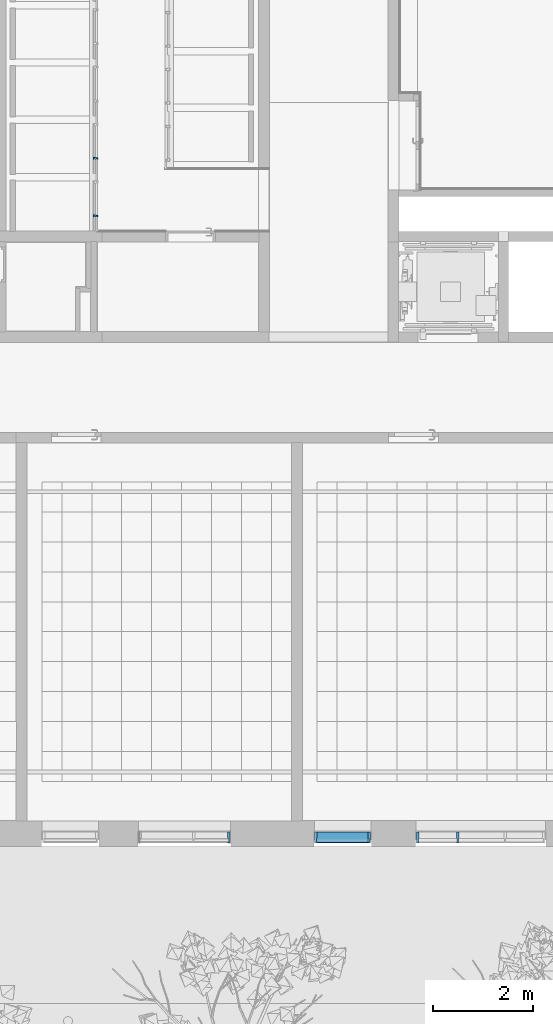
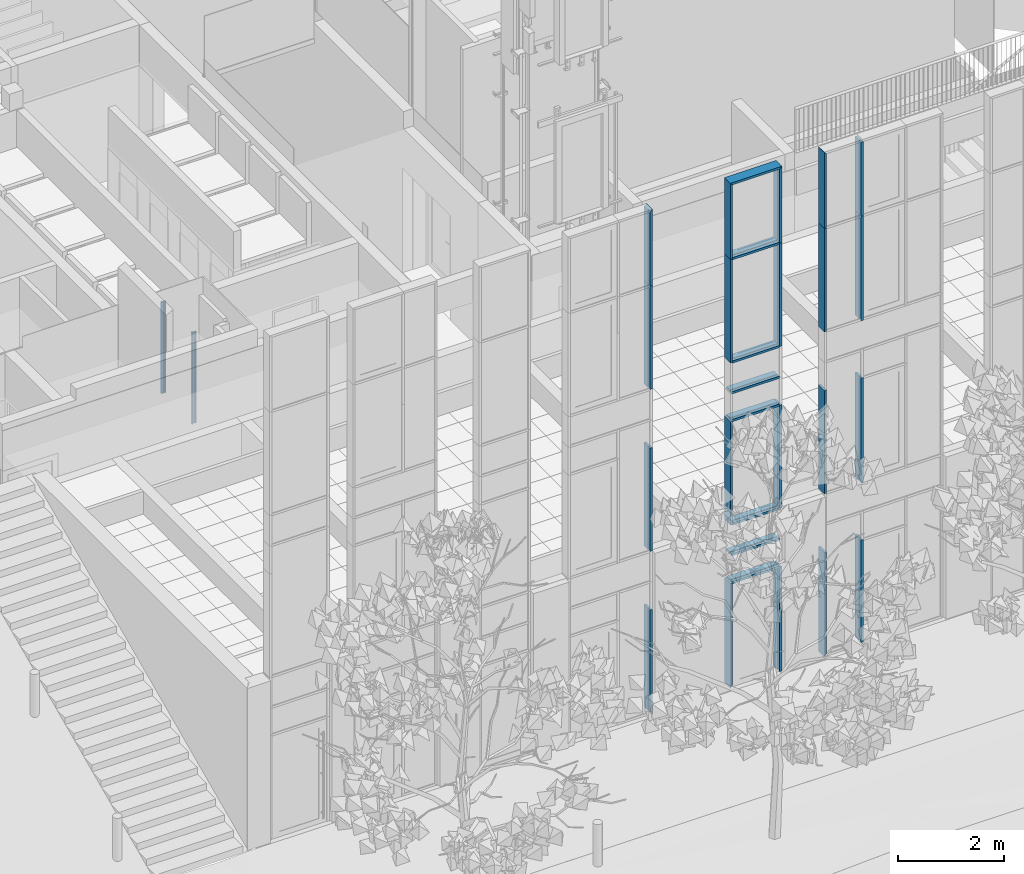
# One storey, part 3 of 246: 30 members, 4 elements without a shape of their own.
"""IFC2X3 building model written with IfcOpenShell, lengths in millimetres."""

from ifc_helpers import new_model, entity, si_unit, converted_unit, derived_unit, money_unit, direction, frame, origin_with_axes, place, context, subcontext, project, spatial, faceted_brep, source, transform, mapped, material, material_list, type_object, element, aggregate, save


model = new_model("IFC2X3")

# Units and contexts
model_context = context("Model", 3, precision=0.01, world=origin_with_axes(), true_north=direction((0.0, 1.0)))
body_context = subcontext(model_context, "Body", "Model", "MODEL_VIEW")
ifc_project = project(units=[si_unit("LENGTHUNIT", "METRE", prefix="MILLI"), si_unit("AREAUNIT", "SQUARE_METRE"), si_unit("VOLUMEUNIT", "CUBIC_METRE"), converted_unit("PLANEANGLEUNIT", "DEGREE", entity("IfcPlaneAngleMeasure", 0.0174532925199), si_unit("PLANEANGLEUNIT", "RADIAN"), dimensions=[0, 0, 0, 0, 0, 0, 0]), si_unit("SOLIDANGLEUNIT", "STERADIAN"), money_unit("EUR"), converted_unit("TIMEUNIT", "Year", entity("IfcTimeMeasure", 31556926.0), si_unit("TIMEUNIT", "SECOND"), dimensions=[0, 0, 1, 0, 0, 0, 0]), si_unit("MASSUNIT", "GRAM", prefix="KILO"), si_unit("THERMODYNAMICTEMPERATUREUNIT", "DEGREE_CELSIUS"), si_unit("LUMINOUSINTENSITYUNIT", "LUMEN"), si_unit("ENERGYUNIT", "JOULE", prefix="MEGA"), derived_unit("THERMALCONDUCTANCEUNIT", [(si_unit("POWERUNIT", "WATT"), 1), (si_unit("LENGTHUNIT", "METRE"), -1), (si_unit("THERMODYNAMICTEMPERATUREUNIT", "KELVIN"), -1)]), derived_unit("SPECIFICHEATCAPACITYUNIT", [(si_unit("ENERGYUNIT", "JOULE"), 1), (si_unit("MASSUNIT", "GRAM", prefix="KILO"), -1), (si_unit("THERMODYNAMICTEMPERATUREUNIT", "KELVIN"), -1)]), derived_unit("MASSDENSITYUNIT", [(si_unit("MASSUNIT", "GRAM", prefix="KILO"), 1), (si_unit("VOLUMEUNIT", "CUBIC_METRE"), -1)])], contexts=[model_context])

# Site, building, storey
site_placement = place(None, origin_with_axes())
site = spatial("IfcSite", under=ifc_project, at=site_placement, Name="L.Koidula tn 11b", CompositionType="ELEMENT")
building_placement = place(site_placement, origin_with_axes())
building = spatial("IfcBuilding", under=site, at=building_placement, Name="Rakvere Riigigümnaasium", CompositionType="ELEMENT")
storey_placement = place(building_placement, origin_with_axes())
storey = spatial("IfcBuildingStorey", under=building, at=storey_placement, Name="1.korrus 0,00", CompositionType="ELEMENT", Elevation=0.0)

# Curtain wall, members
curtain_wall_type = type_object("IfcCurtainWallType", Name="Curtain Wall Type", PredefinedType="NOTDEFINED")
curtain_wall_1_placement = place(storey_placement, frame((42948.5002114, 5111.45334637, -8.09717250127e-06), z_axis=(0.0, 0.0, 1.0), x_axis=(1.0, 0.0, 0.0)))
curtain_wall_1 = element("IfcCurtainWall", 1, at=curtain_wall_1_placement, inside=storey, type_object=curtain_wall_type, Name="KLF-05-2A")
ifc_material_1 = material(Name="Alumiiniumprofiil (RAL 7021)")
member_type_1 = type_object("IfcMemberType", Name="Boundary Frame 50 x 222", PredefinedType="MULLION")
shared_shape_1 = source(origin_with_axes(), body_context, "Body", "Brep", [
    faceted_brep([(37.0, -32.5, 2375.00000025), (37.0, 32.5, 2375.00000025), (50.0, 32.5, 2375.00000025), (50.0, 53.0, 2375.00000025), (0.0, 53.0, 2375.00000025), (0.0, -169.0, 2375.00000025), (50.0, -169.0, 2375.00000025), (50.0, -32.5, 2375.00000025), (37.0, -32.5, -2.4712543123e-07), (37.0, 32.5, -2.4712543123e-07), (50.0, 32.5, -2.47125653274e-07), (50.0, 53.0, -2.47125653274e-07), (0.0, 53.0, -2.47125653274e-07), (0.0, -169.0, -2.47125653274e-07), (50.0, -169.0, -2.47125653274e-07), (50.0, -32.5, -2.47125653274e-07)], [[[0, 1, 2, 3, 4, 5, 6, 7]], [[1, 0, 8, 9]], [[10, 2, 1, 9]], [[2, 10, 11, 3]], [[12, 4, 3, 11]], [[13, 5, 4, 12]], [[14, 6, 5, 13]], [[15, 7, 6, 14]], [[0, 7, 15, 8]], [[8, 15, 14, 13, 12, 11, 10, 9]]]),
])
member_1_placement = place(curtain_wall_1_placement, frame((876.000206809, 0.0, 7465.0), z_axis=(-1.46874329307e-08, 0.0, 1.0), x_axis=(-1.0, 0.0, -1.46874329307e-08)))
member_1 = element("IfcMember", 2, at=member_1_placement, type_object=member_type_1, material=ifc_material_1, Name="KLF-05-8A-Profiilid", ObjectType="MULLION", context=body_context, shape_type="MappedRepresentation", body=[
    mapped(shared_shape_1, transform((0.0, 0.0, 0.0))),
])
member_2_placement = place(curtain_wall_1_placement, frame((876.000206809, 0.0, 3745.0), z_axis=(0.0, 0.0, 1.0), x_axis=(-1.0, 0.0, 0.0)))
member_2 = element("IfcMember", 3, at=member_2_placement, type_object=member_type_1, material=ifc_material_1, Name="KLF-05-5A-Profiilid", ObjectType="MULLION", context=body_context, shape_type="MappedRepresentation", body=[
    mapped(shared_shape_1, transform((0.0, 0.0, 0.0))),
])

curtain_wall_2_placement = place(storey_placement, frame((45905.0206042, 5111.45334637, -8.09717236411e-06), z_axis=(0.0, 0.0, 1.0), x_axis=(1.0, 0.0, 0.0)))
curtain_wall_2 = element("IfcCurtainWall", 4, at=curtain_wall_2_placement, inside=storey, type_object=curtain_wall_type, Name="KLF-05-1B")
member_3_placement = place(curtain_wall_2_placement, frame((734.490457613, 0.0, 7465.0), z_axis=(-9.95532302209e-09, 0.0, 1.0), x_axis=(-1.0, 0.0, -9.95532302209e-09)))
member_3 = element("IfcMember", 5, at=member_3_placement, type_object=member_type_1, material=ifc_material_1, Name="KLF-05-1A-Profiilid", ObjectType="MULLION", context=body_context, shape_type="MappedRepresentation", body=[
    mapped(shared_shape_1, transform((0.0, 0.0, 0.0))),
])
member_4_placement = place(curtain_wall_2_placement, frame((734.490457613, 0.0, 3745.0), z_axis=(0.0, 0.0, 1.0), x_axis=(-1.0, 0.0, 0.0)))
member_4 = element("IfcMember", 6, at=member_4_placement, type_object=member_type_1, material=ifc_material_1, Name="KLF-05-8A-Profiilid", ObjectType="MULLION", context=body_context, shape_type="MappedRepresentation", body=[
    mapped(shared_shape_1, transform((0.0, 0.0, 0.0))),
])
shared_shape_2 = source(origin_with_axes(), body_context, "Body", "Brep", [
    faceted_brep([(-37.0, -32.5, 2375.0), (-50.0, -32.5, 2375.0), (-50.0, -169.0, 2375.0), (0.0, -169.0, 2375.0), (0.0, 53.0, 2375.0), (-50.0, 53.0, 2375.0), (-50.0, 32.5, 2375.0), (-37.0, 32.5, 2375.0), (-37.0, -32.5, 0.0), (-50.0, -32.5, 0.0), (-50.0, -169.0, 0.0), (0.0, -169.0, 0.0), (0.0, 53.0, 0.0), (-50.0, 53.0, 0.0), (-50.0, 32.5, 0.0), (-37.0, 32.5, 0.0)], [[[0, 1, 2, 3, 4, 5, 6, 7]], [[0, 8, 9, 1]], [[9, 10, 2, 1]], [[10, 11, 3, 2]], [[11, 12, 4, 3]], [[12, 13, 5, 4]], [[6, 5, 13, 14]], [[14, 15, 7, 6]], [[7, 15, 8, 0]], [[8, 15, 14, 13, 12, 11, 10, 9]]]),
])
member_5_placement = place(curtain_wall_2_placement, frame((-385.509964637, 0.0, 3745.0), z_axis=(0.0, 0.0, 1.0), x_axis=(-1.0, 0.0, 0.0)))
member_5 = element("IfcMember", 7, at=member_5_placement, type_object=member_type_1, material=ifc_material_1, Name="KLF-05-8A-Profiilid", ObjectType="MULLION", context=body_context, shape_type="MappedRepresentation", body=[
    mapped(shared_shape_2, transform((0.0, 0.0, 0.0))),
])
member_6_placement = place(curtain_wall_2_placement, frame((-385.509964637, 0.0, 7465.0), z_axis=(0.0, 0.0, 1.0), x_axis=(-1.0, 0.0, 0.0)))
member_6 = element("IfcMember", 8, at=member_6_placement, type_object=member_type_1, material=ifc_material_1, Name="KLF-05-5A-Profiilid", ObjectType="MULLION", context=body_context, shape_type="MappedRepresentation", body=[
    mapped(shared_shape_2, transform((0.0, 0.0, 0.0))),
])

curtain_wall_3_placement = place(storey_placement, frame((48860.000217, 5111.43278481, -1.61944597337e-05), z_axis=(0.0, 0.0, 1.0), x_axis=(1.0, 0.0, 0.0)))
curtain_wall_3 = element("IfcCurtainWall", 9, at=curtain_wall_3_placement, inside=storey, type_object=curtain_wall_type, Name="KLF-05-3A")
member_7_placement = place(curtain_wall_3_placement, frame((-1299.99999984, 0.0205615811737, 3745.0), z_axis=(0.0, 0.0, 1.0), x_axis=(-0.999999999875, 1.58166009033e-05, 0.0)))
member_7 = element("IfcMember", 10, at=member_7_placement, type_object=member_type_1, material=ifc_material_1, Name="KLF-05-0A-Profiilid", ObjectType="MULLION", context=body_context, shape_type="MappedRepresentation", body=[
    mapped(shared_shape_2, transform((0.0, 0.0, 0.0))),
])
member_8_placement = place(curtain_wall_3_placement, frame((-1299.99999984, 0.0205615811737, 7465.0), z_axis=(0.0, 0.0, 1.0), x_axis=(-0.999999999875, 1.58166009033e-05, 0.0)))
member_8 = element("IfcMember", 11, at=member_8_placement, type_object=member_type_1, material=ifc_material_1, Name="KLF-05-7A-Profiilid", ObjectType="MULLION", context=body_context, shape_type="MappedRepresentation", body=[
    mapped(shared_shape_2, transform((0.0, 0.0, 0.0))),
])

# Member
shared_shape_3 = source(origin_with_axes(), body_context, "Body", "Brep", [
    faceted_brep([(37.0, -32.5, 1712.99983191), (37.0, 32.5, 1712.99983191), (50.0, 32.5, 1699.99983191), (50.0, 53.0, 1699.99983191), (0.0, 53.0, 1749.99983191), (0.0, -169.0, 1749.99983191), (50.0, -169.0, 1699.99983191), (50.0, -32.5, 1699.99983191), (37.0, -32.5, -2.47125875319e-07), (37.0, 32.5, -2.47125875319e-07), (50.0, 32.5, -2.47125764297e-07), (50.0, 53.0, -2.47125764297e-07), (0.0, 53.0, -2.47125764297e-07), (0.0, -169.0, -2.47125764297e-07), (50.0, -169.0, -2.47125764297e-07), (50.0, -32.5, -2.47125764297e-07)], [[[0, 1, 2, 3, 4, 5, 6, 7]], [[1, 0, 8, 9]], [[10, 2, 1, 9]], [[2, 10, 11, 3]], [[12, 4, 3, 11]], [[13, 5, 4, 12]], [[14, 6, 5, 13]], [[15, 7, 6, 14]], [[0, 7, 15, 8]], [[8, 15, 14, 13, 12, 11, 10, 9]]]),
])
member_9_placement = place(curtain_wall_1_placement, frame((876.000171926, 0.0, 9840.0), z_axis=(5.61334026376e-08, 0.0, 1.0), x_axis=(-1.0, 0.0, 5.61334026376e-08)))
member_9 = element("IfcMember", 12, at=member_9_placement, type_object=member_type_1, material=ifc_material_1, Name="KLF-05-9A-Profiilid", ObjectType="MULLION", context=body_context, shape_type="MappedRepresentation", body=[
    mapped(shared_shape_3, transform((0.0, 0.0, 0.0))),
])

member_10_placement = place(curtain_wall_2_placement, frame((734.490433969, 0.0, 9840.0), z_axis=(3.69989419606e-08, 0.0, 1.0), x_axis=(-1.0, 0.0, 3.69989419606e-08)))
member_10 = element("IfcMember", 13, at=member_10_placement, type_object=member_type_1, material=ifc_material_1, Name="KLF-05-2A-Profiilid", ObjectType="MULLION", context=body_context, shape_type="MappedRepresentation", body=[
    mapped(shared_shape_3, transform((0.0, 0.0, 0.0))),
])

member_type_2 = type_object("IfcMemberType", Name="Mullion Frame 50 x 222", PredefinedType="MULLION")
shared_shape_4 = source(origin_with_axes(), body_context, "Body", "Brep", [
    faceted_brep([(-12.0, -32.5, 2375.0), (-25.0, -32.5, 2375.0), (-25.0, -169.0, 2375.0), (25.0, -169.0, 2375.0), (25.0, -32.5, 2375.0), (12.0, -32.5, 2375.0), (12.0, 32.5, 2375.0), (25.0, 32.5, 2375.0), (25.0, 53.0, 2375.0), (-25.0, 53.0, 2375.0), (-25.0, 32.5, 2375.0), (-12.0, 32.5, 2375.0), (-12.0, -32.5, -25.0), (-25.0, -32.5, -25.0), (-25.0, -169.0, -25.0), (25.0, -169.0, -25.0), (25.0, -32.5, -25.0), (12.0, -32.5, -25.0), (12.0, 32.5, -25.0), (25.0, 32.5, -25.0), (25.0, 53.0, -25.0), (-25.0, 53.0, -25.0), (-25.0, 32.5, -25.0), (-12.0, 32.5, -25.0)], [[[0, 1, 2, 3, 4, 5, 6, 7, 8, 9, 10, 11]], [[1, 0, 12, 13]], [[1, 13, 14, 2]], [[3, 2, 14, 15]], [[4, 3, 15, 16]], [[4, 16, 17, 5]], [[5, 17, 18, 6]], [[7, 6, 18, 19]], [[19, 20, 8, 7]], [[9, 8, 20, 21]], [[22, 10, 9, 21]], [[11, 10, 22, 23]], [[0, 11, 23, 12]], [[23, 22, 21, 20, 19, 18, 17, 16, 15, 14, 13, 12]]]),
])
member_11_placement = place(curtain_wall_3_placement, frame((-474.999999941, 0.00751288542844, 3745.0), z_axis=(0.0, 0.0, 1.0), x_axis=(-0.999999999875, 1.58166009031e-05, 0.0)))
member_11 = element("IfcMember", 14, at=member_11_placement, type_object=member_type_2, material=ifc_material_1, Name="KLF-05-3A-Profiilid", ObjectType="MULLION", context=body_context, shape_type="MappedRepresentation", body=[
    mapped(shared_shape_4, transform((0.0, 0.0, 0.0))),
])

member_12_placement = place(curtain_wall_3_placement, frame((-474.999999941, 0.00751288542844, 7465.0), z_axis=(0.0, 0.0, 1.0), x_axis=(-0.999999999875, 1.58166009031e-05, 0.0)))
member_12 = element("IfcMember", 15, at=member_12_placement, type_object=member_type_2, material=ifc_material_1, Name="KLF-05-3A-Profiilid", ObjectType="MULLION", context=body_context, shape_type="MappedRepresentation", body=[
    mapped(shared_shape_4, transform((0.0, 0.0, 0.0))),
])

shared_shape_5 = source(origin_with_axes(), body_context, "Body", "Brep", [
    faceted_brep([(37.0, -32.5, 2400.0), (37.0, 32.5, 2400.0), (50.0, 32.5, 2400.0), (50.0, 53.0, 2400.0), (0.0, 53.0, 2400.0), (0.0, -169.0, 2400.0), (50.0, -169.0, 2400.0), (50.0, -32.5, 2400.0), (37.0, -32.5, 37.0), (37.0, 32.5, 37.0), (50.0, 32.5, 50.0), (50.0, 53.0, 50.0), (0.0, 53.0, 0.0), (0.0, -169.0, 0.0), (50.0, -169.0, 50.0), (50.0, -32.5, 50.0)], [[[0, 1, 2, 3, 4, 5, 6, 7]], [[1, 0, 8, 9]], [[10, 2, 1, 9]], [[2, 10, 11, 3]], [[4, 3, 11, 12]], [[5, 4, 12, 13]], [[6, 5, 13, 14]], [[15, 7, 6, 14]], [[0, 7, 15, 8]], [[8, 15, 14, 13, 12, 11, 10, 9]]]),
])
member_13_placement = place(curtain_wall_1_placement, frame((876.000206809, 0.0, 0.0), z_axis=(0.0, 0.0, 1.0), x_axis=(-1.0, 0.0, 0.0)))
member_13 = element("IfcMember", 16, at=member_13_placement, type_object=member_type_1, material=ifc_material_1, Name="KLF-05-2A-Profiilid", ObjectType="MULLION", context=body_context, shape_type="MappedRepresentation", body=[
    mapped(shared_shape_5, transform((0.0, 0.0, 0.0))),
])

aggregate(curtain_wall_1, [member_1, member_2, member_13, member_9])

shared_shape_6 = source(origin_with_axes(), body_context, "Body", "Brep", [
    faceted_brep([(-12.0, -32.5, 1699.99983191), (-25.0, -32.5, 1699.99983191), (-25.0, -169.0, 1699.99983191), (25.0, -169.0, 1699.99983191), (25.0, -32.5, 1699.99983191), (12.0, -32.5, 1699.99983191), (12.0, 32.5, 1699.99983191), (25.0, 32.5, 1699.99983191), (25.0, 53.0, 1699.99983191), (-25.0, 53.0, 1699.99983191), (-25.0, 32.5, 1699.99983191), (-12.0, 32.5, 1699.99983191), (-12.0, -32.5, 0.0), (-25.0, -32.5, 0.0), (-25.0, -169.0, 0.0), (25.0, -169.0, 0.0), (25.0, -32.5, 0.0), (12.0, -32.5, 0.0), (12.0, 32.5, 0.0), (25.0, 32.5, 0.0), (25.0, 53.0, 0.0), (-25.0, 53.0, 0.0), (-25.0, 32.5, 0.0), (-12.0, 32.5, 0.0)], [[[0, 1, 2, 3, 4, 5, 6, 7, 8, 9, 10, 11]], [[1, 0, 12, 13]], [[1, 13, 14, 2]], [[3, 2, 14, 15]], [[4, 3, 15, 16]], [[4, 16, 17, 5]], [[5, 17, 18, 6]], [[7, 6, 18, 19]], [[19, 20, 8, 7]], [[9, 8, 20, 21]], [[22, 10, 9, 21]], [[11, 10, 22, 23]], [[0, 11, 23, 12]], [[23, 22, 21, 20, 19, 18, 17, 16, 15, 14, 13, 12]]]),
])
member_14_placement = place(curtain_wall_3_placement, frame((-474.999999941, 0.00751288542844, 9840.0), z_axis=(0.0, 0.0, 1.0), x_axis=(-0.999999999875, 1.58166009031e-05, 0.0)))
member_14 = element("IfcMember", 17, at=member_14_placement, type_object=member_type_2, material=ifc_material_1, Name="KLF-05-9A-Profiilid", ObjectType="MULLION", context=body_context, shape_type="MappedRepresentation", body=[
    mapped(shared_shape_6, transform((0.0, 0.0, 0.0))),
])

shared_shape_7 = source(origin_with_axes(), body_context, "Body", "Brep", [
    faceted_brep([(-37.0, -32.5, 2400.0), (-50.0, -32.5, 2400.0), (-50.0, -169.0, 2400.0), (0.0, -169.0, 2400.0), (0.0, 53.0, 2400.0), (-50.0, 53.0, 2400.0), (-50.0, 32.5, 2400.0), (-37.0, 32.5, 2400.0), (-37.0, -32.5, 37.0), (-50.0, -32.5, 50.0), (-50.0, -169.0, 50.0), (0.0, -169.0, 0.0), (0.0, 53.0, 0.0), (-50.0, 53.0, 50.0), (-50.0, 32.5, 50.0), (-37.0, 32.5, 37.0)], [[[0, 1, 2, 3, 4, 5, 6, 7]], [[0, 8, 9, 1]], [[9, 10, 2, 1]], [[2, 10, 11, 3]], [[3, 11, 12, 4]], [[4, 12, 13, 5]], [[6, 5, 13, 14]], [[14, 15, 7, 6]], [[7, 15, 8, 0]], [[8, 15, 14, 13, 12, 11, 10, 9]]]),
])
member_15_placement = place(curtain_wall_2_placement, frame((-385.509964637, 0.0, 0.0), z_axis=(0.0, 0.0, 1.0), x_axis=(-1.0, 0.0, 0.0)))
member_15 = element("IfcMember", 18, at=member_15_placement, type_object=member_type_1, material=ifc_material_1, Name="KLF-05-1A-Profiilid", ObjectType="MULLION", context=body_context, shape_type="MappedRepresentation", body=[
    mapped(shared_shape_7, transform((0.0, 0.0, 0.0))),
])

member_16_placement = place(curtain_wall_3_placement, frame((-1299.99999984, 0.0205615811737, 0.0), z_axis=(0.0, 0.0, 1.0), x_axis=(-0.999999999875, 1.58166009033e-05, 0.0)))
member_16 = element("IfcMember", 19, at=member_16_placement, type_object=member_type_1, material=ifc_material_1, Name="KLF-05-1A-Profiilid", ObjectType="MULLION", context=body_context, shape_type="MappedRepresentation", body=[
    mapped(shared_shape_7, transform((0.0, 0.0, 0.0))),
])

shared_shape_8 = source(origin_with_axes(), body_context, "Body", "Brep", [
    faceted_brep([(-37.0, -32.5, 1712.99983191), (-50.0, -32.5, 1699.99983191), (-50.0, -169.0, 1699.99983191), (0.0, -169.0, 1749.99983191), (0.0, 53.0, 1749.99983191), (-50.0, 53.0, 1699.99983191), (-50.0, 32.5, 1699.99983191), (-37.0, 32.5, 1712.99983191), (-37.0, -32.5, 0.0), (-50.0, -32.5, 0.0), (-50.0, -169.0, 0.0), (0.0, -169.0, 0.0), (0.0, 53.0, 0.0), (-50.0, 53.0, 0.0), (-50.0, 32.5, 0.0), (-37.0, 32.5, 0.0)], [[[0, 1, 2, 3, 4, 5, 6, 7]], [[0, 8, 9, 1]], [[9, 10, 2, 1]], [[10, 11, 3, 2]], [[11, 12, 4, 3]], [[12, 13, 5, 4]], [[6, 5, 13, 14]], [[14, 15, 7, 6]], [[7, 15, 8, 0]], [[8, 15, 14, 13, 12, 11, 10, 9]]]),
])
member_17_placement = place(curtain_wall_2_placement, frame((-385.509964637, 0.0, 9840.0), z_axis=(0.0, 0.0, 1.0), x_axis=(-1.0, 0.0, 0.0)))
member_17 = element("IfcMember", 20, at=member_17_placement, type_object=member_type_1, material=ifc_material_1, Name="KLF-05-4A-Profiilid", ObjectType="MULLION", context=body_context, shape_type="MappedRepresentation", body=[
    mapped(shared_shape_8, transform((0.0, 0.0, 0.0))),
])

member_18_placement = place(curtain_wall_3_placement, frame((-1299.99999984, 0.0205615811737, 9840.0), z_axis=(0.0, 0.0, 1.0), x_axis=(-0.999999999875, 1.58166009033e-05, 0.0)))
member_18 = element("IfcMember", 21, at=member_18_placement, type_object=member_type_1, material=ifc_material_1, Name="KLF-05-6A-Profiilid", ObjectType="MULLION", context=body_context, shape_type="MappedRepresentation", body=[
    mapped(shared_shape_8, transform((0.0, 0.0, 0.0))),
])

member_type_3 = type_object("IfcMemberType", Name="Transom Frame 50 x 222", PredefinedType="MULLION")
shared_shape_9 = source(origin_with_axes(), body_context, "Body", "Brep", [
    faceted_brep([(-12.0, -32.5, 1070.00039943), (-25.0, -32.5, 1070.00039943), (-25.0, -169.0, 1070.00039943), (25.0, -169.0, 1070.00039943), (25.0, -32.5, 1070.00039943), (12.0, -32.5, 1070.00039943), (12.0, 32.5, 1070.00039943), (25.0, 32.5, 1070.00039943), (25.0, 53.0, 1070.00039943), (-25.0, 53.0, 1070.00039943), (-25.0, 32.5, 1070.00039943), (-12.0, 32.5, 1070.00039943), (-12.0, -32.5, 50.0000015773), (-25.0, -32.5, 50.0000015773), (-25.0, -169.0, 50.0000082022), (25.0, -169.0, 50.0000082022), (25.0, -32.5, 50.0000015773), (12.0, -32.5, 50.0000015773), (12.0, 32.5, 49.9999984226), (25.0, 32.5, 49.9999984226), (25.0, 53.0, 49.9999974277), (-25.0, 53.0, 49.9999974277), (-25.0, 32.5, 49.9999984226), (-12.0, 32.5, 49.9999984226)], [[[0, 1, 2, 3, 4, 5, 6, 7, 8, 9, 10, 11]], [[1, 0, 12, 13]], [[1, 13, 14, 2]], [[2, 14, 15, 3]], [[4, 3, 15, 16]], [[4, 16, 17, 5]], [[5, 17, 18, 6]], [[7, 6, 18, 19]], [[19, 20, 8, 7]], [[8, 20, 21, 9]], [[22, 10, 9, 21]], [[11, 10, 22, 23]], [[0, 11, 23, 12]], [[23, 22, 21, 20, 19, 18, 17, 16, 15, 14, 13, 12]]]),
])
member_19_placement = place(curtain_wall_2_placement, frame((-385.509964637, 0.0, 9840.0), z_axis=(1.0, 0.0, 0.0), x_axis=(0.0, 0.0, 1.0)))
member_19 = element("IfcMember", 22, at=member_19_placement, type_object=member_type_3, material=ifc_material_1, Name="KLF-05-0A-Profiilid", ObjectType="MULLION", context=body_context, shape_type="MappedRepresentation", body=[
    mapped(shared_shape_9, transform((0.0, 0.0, 0.0))),
])

shared_shape_10 = source(origin_with_axes(), body_context, "Body", "Brep", [
    faceted_brep([(-12.0, -32.5, 2400.0), (-25.0, -32.5, 2400.0), (-25.0, -169.0, 2400.0), (25.0, -169.0, 2400.0), (25.0, -32.5, 2400.0), (12.0, -32.5, 2400.0), (12.0, 32.5, 2400.0), (25.0, 32.5, 2400.0), (25.0, 53.0, 2400.0), (-25.0, 53.0, 2400.0), (-25.0, 32.5, 2400.0), (-12.0, 32.5, 2400.0), (-12.0, -32.5, 50.0), (-25.0, -32.5, 50.0), (-25.0, -169.0, 50.0), (25.0, -169.0, 50.0), (25.0, -32.5, 50.0), (12.0, -32.5, 50.0), (12.0, 32.5, 50.0), (25.0, 32.5, 50.0), (25.0, 53.0, 50.0), (-25.0, 53.0, 50.0), (-25.0, 32.5, 50.0), (-12.0, 32.5, 50.0)], [[[0, 1, 2, 3, 4, 5, 6, 7, 8, 9, 10, 11]], [[1, 0, 12, 13]], [[1, 13, 14, 2]], [[2, 14, 15, 3]], [[4, 3, 15, 16]], [[4, 16, 17, 5]], [[5, 17, 18, 6]], [[7, 6, 18, 19]], [[19, 20, 8, 7]], [[8, 20, 21, 9]], [[22, 10, 9, 21]], [[11, 10, 22, 23]], [[0, 11, 23, 12]], [[23, 22, 21, 20, 19, 18, 17, 16, 15, 14, 13, 12]]]),
])
member_20_placement = place(curtain_wall_3_placement, frame((-474.999999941, 0.00751288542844, 0.0), z_axis=(0.0, 0.0, 1.0), x_axis=(-0.999999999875, 1.58166009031e-05, 0.0)))
member_20 = element("IfcMember", 23, at=member_20_placement, type_object=member_type_2, material=ifc_material_1, Name="KLF-05-3A-Profiilid", ObjectType="MULLION", context=body_context, shape_type="MappedRepresentation", body=[
    mapped(shared_shape_10, transform((0.0, 0.0, 0.0))),
])

aggregate(curtain_wall_3, [member_20, member_11, member_12, member_16, member_7, member_8, member_18, member_14])

# Curtain wall, members
curtain_wall_4_placement = place(storey_placement, frame((41170.0073165, 24038.4555472, 1.56205997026e-05), z_axis=(0.0, 0.0, 1.0), x_axis=(1.0, 0.0, 0.0)))
curtain_wall_4 = element("IfcCurtainWall", 24, at=curtain_wall_4_placement, inside=storey, type_object=curtain_wall_type, Name="SUS-01")
ifc_material_2 = material(Name="MDF")
ifc_material_3 = material(Name="Alumiiniumprofiil")
ifc_material_list = material_list([ifc_material_2, ifc_material_3])
member_type_4 = type_object("IfcMemberType", Name="SA-Siseuksesüsteem-V 46 x 0", PredefinedType="MULLION")
shared_shape_11 = source(origin_with_axes(), body_context, "Body", "Brep", [
    faceted_brep([(-1.99999958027, 10.0000006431, 0.0), (-33.9999997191, 9.99997870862, 0.0), (-33.9999997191, 9.99997870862, 2099.99998859), (-1.99999958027, 10.0000006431, 2099.99998859), (-2.00000095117, 0.0, 0.0), (-33.9999997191, 0.0, 0.0), (-33.9999997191, 0.0, 2099.99998859), (-2.00000095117, 0.0, 2099.99998859)], [[[0, 1, 2, 3]], [[0, 4, 5, 1]], [[1, 5, 6, 2]], [[3, 2, 6, 7]], [[4, 0, 3, 7]], [[5, 4, 7, 6]]]),
    faceted_brep([(10.0000006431, 91.9999779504, 0.0), (-33.9999997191, 91.9999779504, 0.0), (-33.9999997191, 91.9999779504, 2099.99998859), (10.0000006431, 91.9999779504, 2099.99998859), (10.0000294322, 81.9999773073, 0.0), (-33.9999997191, 81.9999773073, 0.0), (-33.9999997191, 81.9999773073, 2099.99998859), (10.0000294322, 81.9999773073, 2099.99998859)], [[[0, 1, 2, 3]], [[0, 4, 5, 1]], [[1, 5, 6, 2]], [[3, 2, 6, 7]], [[4, 0, 3, 7]], [[5, 4, 7, 6]]]),
    faceted_brep([(12.0000002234, 47.5000006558, 0.0), (12.0000002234, 91.9999779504, 0.0), (12.0000002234, 91.9999779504, 2099.99998859), (12.0000002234, 47.5000006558, 2099.99998859), (0.0, 47.5000006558, 0.0), (0.0, 32.9000011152, 0.0), (0.0, 0.0, 0.0), (-2.00000095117, 0.0, 0.0), (-1.99999958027, 10.0000006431, 0.0), (-2.00000095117, 10.49999951, 0.0), (-32.0000001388, 10.49999951, 0.0), (-32.0000001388, 9.99997870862, 0.0), (-33.9999997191, 9.99997870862, 0.0), (-33.9999997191, 13.9999998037, 0.0), (-22.4999997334, 13.9999998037, 0.0), (-22.4999997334, 44.3999997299, 0.0), (-33.9999997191, 44.3999997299, 0.0), (-33.9999997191, 47.600000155, 0.0), (-22.4999997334, 47.600000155, 0.0), (-22.4999997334, 78.0000000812, 0.0), (-33.9999997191, 78.0000000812, 0.0), (-33.9999997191, 81.5000003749, 0.0), (-24.2499991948, 81.5000003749, 0.0), (9.99999927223, 81.5000003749, 0.0), (10.0000294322, 81.9999773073, 0.0), (10.0000006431, 91.9999779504, 0.0), (10.0000006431, 91.9999779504, 2099.99998859), (10.0000294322, 81.9999773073, 2099.99998859), (9.99999927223, 81.5000003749, 2099.99998859), (-24.2499991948, 81.5000003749, 2099.99998859), (-33.9999997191, 81.5000003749, 2099.99998859), (-33.9999997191, 78.0000000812, 2099.99998859), (-22.4999997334, 78.0000000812, 2099.99998859), (-22.4999997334, 47.600000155, 2099.99998859), (-33.9999997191, 47.600000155, 2099.99998859), (-33.9999997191, 44.3999997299, 2099.99998859), (-22.4999997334, 44.3999997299, 2099.99998859), (-22.4999997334, 13.9999998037, 2099.99998859), (-33.9999997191, 13.9999998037, 2099.99998859), (-33.9999997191, 9.99997870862, 2099.99998859), (-32.0000001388, 9.99997870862, 2099.99998859), (-32.0000001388, 10.49999951, 2099.99998859), (-2.00000095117, 10.49999951, 2099.99998859), (-1.99999958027, 10.0000006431, 2099.99998859), (-2.00000095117, 0.0, 2099.99998859), (0.0, 0.0, 2099.99998859), (0.0, 32.9000011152, 2099.99998859), (0.0, 47.5000006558, 2099.99998859)], [[[0, 1, 2, 3]], [[0, 4, 5, 6, 7, 8, 9, 10, 11, 12, 13, 14, 15, 16, 17, 18, 19, 20, 21, 22, 23, 24, 25, 1]], [[1, 25, 26, 2]], [[3, 2, 26, 27, 28, 29, 30, 31, 32, 33, 34, 35, 36, 37, 38, 39, 40, 41, 42, 43, 44, 45, 46, 47]], [[4, 0, 3, 47]], [[5, 4, 47, 46]], [[6, 5, 46, 45]], [[7, 6, 45, 44]], [[8, 7, 44, 43]], [[9, 8, 43, 42]], [[10, 9, 42, 41]], [[11, 10, 41, 40]], [[12, 11, 40, 39]], [[13, 12, 39, 38]], [[14, 13, 38, 37]], [[15, 14, 37, 36]], [[16, 15, 36, 35]], [[17, 16, 35, 34]], [[18, 17, 34, 33]], [[19, 18, 33, 32]], [[20, 19, 32, 31]], [[21, 20, 31, 30]], [[22, 21, 30, 29]], [[23, 22, 29, 28]], [[24, 23, 28, 27]], [[25, 24, 27, 26]]]),
])
member_21_placement = place(curtain_wall_4_placement, frame((0.0, -5247.00003493, -1.56205997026e-05), z_axis=(0.0, 0.0, 1.0), x_axis=(0.0, 1.0, 0.0)))
member_21 = element("IfcMember", 25, at=member_21_placement, type_object=member_type_4, material=ifc_material_list, Name="Frame-New-Frame-022", ObjectType="MULLION", context=body_context, shape_type="MappedRepresentation", body=[
    mapped(shared_shape_11, transform((0.0, 0.0, 0.0))),
])
member_22_placement = place(curtain_wall_4_placement, frame((0.0, -6397.00003493, -1.56205997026e-05), z_axis=(0.0, 0.0, 1.0), x_axis=(0.0, 1.0, 0.0)))
member_22 = element("IfcMember", 26, at=member_22_placement, type_object=member_type_4, material=ifc_material_list, Name="Frame-New-Frame-023", ObjectType="MULLION", context=body_context, shape_type="MappedRepresentation", body=[
    mapped(shared_shape_11, transform((0.0, 0.0, 0.0))),
])
aggregate(curtain_wall_4, [member_21, member_22])

# Member
member_type_5 = type_object("IfcMemberType", Name="50 x 208", PredefinedType="MULLION")
shared_shape_12 = source(origin_with_axes(), body_context, "Body", "Brep", [
    faceted_brep([(-12.0, -27.0, 1033.47095059), (-25.0, -27.0, 1033.47095059), (-25.0, -160.0, 1033.47095059), (25.0, -160.0, 1033.47095059), (25.0, -27.0, 1033.47095059), (12.0, -27.0, 1033.47095059), (12.0, 27.0, 1033.47095059), (25.0, 27.0, 1033.47095059), (25.0, 48.0, 1033.47095059), (-25.0, 48.0, 1033.47095059), (-25.0, 27.0, 1033.47095059), (-12.0, 27.0, 1033.47095059), (-12.0, -27.0, 0.0), (-25.0, -27.0, 0.0), (-25.0, -160.0, 0.0), (25.0, -160.0, 0.0), (25.0, -27.0, 0.0), (12.0, -27.0, 0.0), (12.0, 27.0, 0.0), (25.0, 27.0, 0.0), (25.0, 48.0, 0.0), (-25.0, 48.0, 0.0), (-25.0, 27.0, 0.0), (-12.0, 27.0, 0.0)], [[[0, 1, 2, 3, 4, 5, 6, 7, 8, 9, 10, 11]], [[1, 0, 12, 13]], [[1, 13, 14, 2]], [[3, 2, 14, 15]], [[4, 3, 15, 16]], [[4, 16, 17, 5]], [[5, 17, 18, 6]], [[7, 6, 18, 19]], [[19, 20, 8, 7]], [[9, 8, 20, 21]], [[22, 10, 9, 21]], [[11, 10, 22, 23]], [[0, 11, 23, 12]], [[23, 22, 21, 20, 19, 18, 17, 16, 15, 14, 13, 12]]]),
])
member_23_placement = place(curtain_wall_2_placement, frame((-348.980492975, 0.0, 7465.0), z_axis=(1.0, 0.0, 0.0), x_axis=(0.0, 0.0, 1.0)))
member_23 = element("IfcMember", 27, at=member_23_placement, type_object=member_type_5, material=ifc_material_1, Name="KLF-50", ObjectType="MULLION", context=body_context, shape_type="MappedRepresentation", body=[
    mapped(shared_shape_12, transform((0.0, 0.0, 0.0))),
])

member_24_placement = place(curtain_wall_2_placement, frame((-348.980492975, 0.0, 6760.0), z_axis=(1.0, 0.0, 0.0), x_axis=(0.0, 0.0, 1.0)))
member_24 = element("IfcMember", 28, at=member_24_placement, type_object=member_type_5, material=ifc_material_1, Name="KLF-17", ObjectType="MULLION", context=body_context, shape_type="MappedRepresentation", body=[
    mapped(shared_shape_12, transform((0.0, 0.0, 0.0))),
])

member_25_placement = place(curtain_wall_2_placement, frame((-348.980492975, 0.0, 3745.0), z_axis=(1.0, 0.0, 0.0), x_axis=(0.0, 0.0, 1.0)))
member_25 = element("IfcMember", 29, at=member_25_placement, type_object=member_type_5, material=ifc_material_1, Name="KLF-84", ObjectType="MULLION", context=body_context, shape_type="MappedRepresentation", body=[
    mapped(shared_shape_12, transform((0.0, 0.0, 0.0))),
])

member_26_placement = place(curtain_wall_2_placement, frame((-348.980492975, 0.0, 6120.0), z_axis=(1.0, 0.0, 0.0), x_axis=(0.0, 0.0, 1.0)))
member_26 = element("IfcMember", 30, at=member_26_placement, type_object=member_type_5, material=ifc_material_1, Name="KLF-15", ObjectType="MULLION", context=body_context, shape_type="MappedRepresentation", body=[
    mapped(shared_shape_12, transform((0.0, 0.0, 0.0))),
])

member_27_placement = place(curtain_wall_2_placement, frame((-348.980492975, 0.0, 3040.0), z_axis=(1.0, 0.0, 0.0), x_axis=(0.0, 0.0, 1.0)))
member_27 = element("IfcMember", 31, at=member_27_placement, type_object=member_type_5, material=ifc_material_1, Name="KLF-82", ObjectType="MULLION", context=body_context, shape_type="MappedRepresentation", body=[
    mapped(shared_shape_12, transform((0.0, 0.0, 0.0))),
])

member_28_placement = place(curtain_wall_2_placement, frame((-348.980492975, 0.0, 2400.0), z_axis=(1.0, 0.0, 0.0), x_axis=(0.0, 0.0, 1.0)))
member_28 = element("IfcMember", 32, at=member_28_placement, type_object=member_type_5, material=ifc_material_1, Name="KLF-40", ObjectType="MULLION", context=body_context, shape_type="MappedRepresentation", body=[
    mapped(shared_shape_12, transform((0.0, 0.0, 0.0))),
])

shared_shape_13 = source(origin_with_axes(), body_context, "Body", "Brep", [
    faceted_brep([(37.0, -32.5, 1083.00031544), (37.0, 32.5, 1083.00031544), (50.0, 32.5, 1070.00031544), (50.0, 53.0, 1070.00031544), (0.0, 53.0, 1120.00031544), (0.0, -169.0, 1120.00031544), (50.0, -169.0, 1070.00031544), (50.0, -32.5, 1070.00031544), (37.0, -32.5, 37.0), (37.0, 32.5, 37.0), (50.0, 32.5, 50.0), (50.0, 53.0, 50.0), (0.0, 53.0, 0.0), (0.0, -169.0, 0.0), (50.0, -169.0, 50.0), (50.0, -32.5, 50.0)], [[[0, 1, 2, 3, 4, 5, 6, 7]], [[1, 0, 8, 9]], [[10, 2, 1, 9]], [[2, 10, 11, 3]], [[4, 3, 11, 12]], [[5, 4, 12, 13]], [[6, 5, 13, 14]], [[15, 7, 6, 14]], [[0, 7, 15, 8]], [[8, 15, 14, 13, 12, 11, 10, 9]]]),
])
member_29_placement = place(curtain_wall_2_placement, frame((734.490498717, 0.0, 11590.0000411), z_axis=(-1.0, 0.0, 0.0), x_axis=(0.0, 0.0, -1.0)))
member_29 = element("IfcMember", 33, at=member_29_placement, type_object=member_type_1, material=ifc_material_1, Name="KLF-05-3A-Profiilid", ObjectType="MULLION", context=body_context, shape_type="MappedRepresentation", body=[
    mapped(shared_shape_13, transform((0.0, 0.0, 0.0))),
])

shared_shape_14 = source(origin_with_axes(), body_context, "Body", "Brep", [
    faceted_brep([(37.0, -32.5, 2400.0), (37.0, 32.5, 2400.0), (50.0, 32.5, 2400.0), (50.0, 53.0, 2400.0), (0.0, 53.0, 2400.0), (0.0, -169.0, 2400.0), (50.0, -169.0, 2400.0), (50.0, -32.5, 2400.0), (37.0, -32.5, 0.0), (37.0, 32.5, 0.0), (50.0, 32.5, 0.0), (50.0, 53.0, 0.0), (0.0, 53.0, 0.0), (0.0, -169.0, 0.0), (50.0, -169.0, 0.0), (50.0, -32.5, 0.0)], [[[0, 1, 2, 3, 4, 5, 6, 7]], [[1, 0, 8, 9]], [[10, 2, 1, 9]], [[2, 10, 11, 3]], [[12, 4, 3, 11]], [[13, 5, 4, 12]], [[14, 6, 5, 13]], [[15, 7, 6, 14]], [[0, 7, 15, 8]], [[8, 15, 14, 13, 12, 11, 10, 9]]]),
])
member_30_placement = place(curtain_wall_2_placement, frame((734.490457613, 0.0, 0.0), z_axis=(0.0, 0.0, 1.0), x_axis=(-1.0, 0.0, 0.0)))
member_30 = element("IfcMember", 34, at=member_30_placement, type_object=member_type_1, material=ifc_material_1, Name="KLF-05-5A-Profiilid", ObjectType="MULLION", context=body_context, shape_type="MappedRepresentation", body=[
    mapped(shared_shape_14, transform((0.0, 0.0, 0.0))),
])

aggregate(curtain_wall_2, [member_30, member_23, member_24, member_3, member_4, member_25, member_26, member_19, member_27, member_28, member_15, member_5, member_6, member_10, member_29, member_17])

save(model, "model.ifc")
